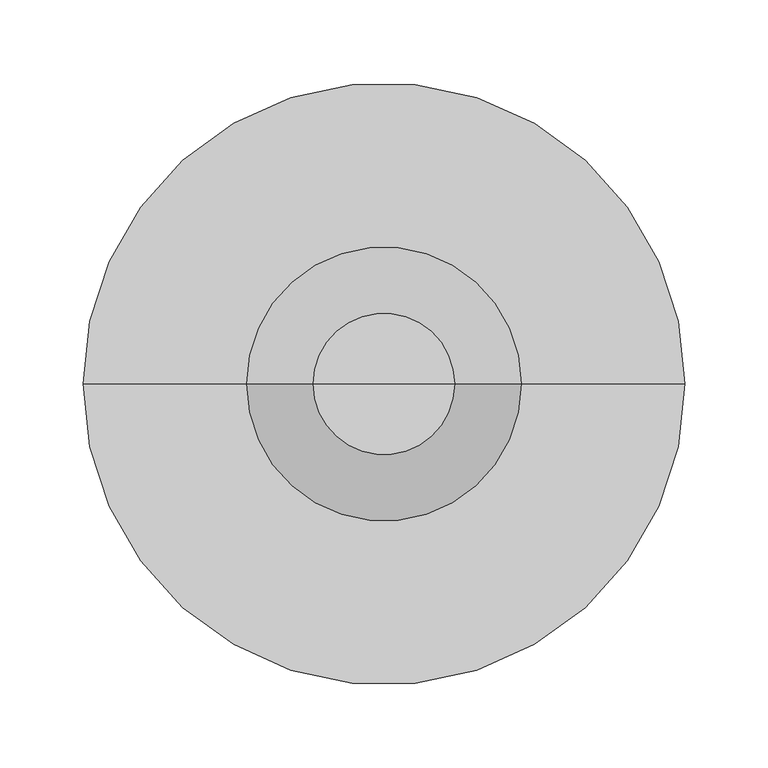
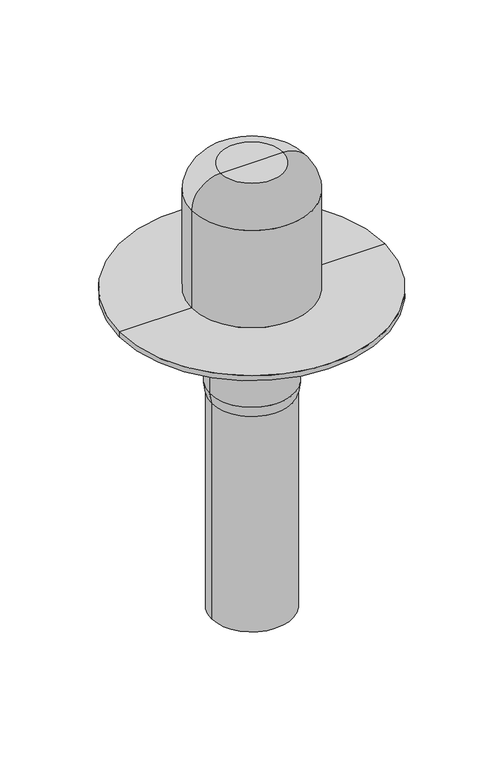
"""IFC4 building model written with IfcOpenShell, lengths in millimetres: flow terminal geometry, BIMLIB_Воронка_Кровельная_Fachmann_V-PVC : 110х450."""

from ifc_helpers import new_model, si_unit, point, frame, origin, origin_with_axes, place, context, project, spatial, polyline, circle_curve, ellipse_curve, trimmed, source, transform, mapped, element, save
from ifc_brep_helpers import plane_surface, cylinder_surface, revolved_surface, advanced_brep


def flow_terminal_4cd8edcf(model_context):
    return source(origin(), model_context, "Body", "AdvancedBrep", [
        advanced_brep(
        [(55.0, 0.0, -450.0), (-55.0, 0.0, -450.0), (-55.0, 0.0, -140.0), (55.0, 0.0, -140.0), (-57.5, 0.0, -125.0), (57.5, 0.0, -125.0), (-57.5, 0.0, -75.0), (57.5, 0.0, -75.0), (-82.5, 0.0, -35.0), (82.5, 0.0, -35.0), (-111.5, 0.0, -35.0), (111.5, 0.0, -35.0), (-111.5, 0.0, 0.0), (111.5, 0.0, 0.0), (0.0, 0.0, 0.0)],
        [
            (0, 1, circle_curve(frame((0.0, 0.0, -450.0), z_axis=(0.0, 0.0, -1.0), x_axis=(-1.0, 0.0, 0.0)), 55.0)),
            (1, 0, circle_curve(frame((0.0, 0.0, -450.0), z_axis=(0.0, 0.0, -1.0), x_axis=(-1.0, 0.0, 0.0)), 55.0)),
            (1, 2),
            (2, 3, circle_curve(frame((0.0, 0.0, -140.0), z_axis=(0.0, 0.0, -1.0), x_axis=(-1.0, 0.0, 0.0)), 55.0)),
            (3, 0),
            (3, 2, circle_curve(frame((0.0, 0.0, -140.0), z_axis=(0.0, 0.0, -1.0), x_axis=(-1.0, 0.0, 0.0)), 55.0)),
            (4, 5, circle_curve(frame((0.0, 0.0, -125.0), z_axis=(0.0, 0.0, -1.0), x_axis=(1.0, 0.0, 0.0)), 57.5)),
            (5, 3),
            (2, 4),
            (5, 4, circle_curve(frame((0.0, 0.0, -125.0), z_axis=(0.0, 0.0, -1.0), x_axis=(1.0, 0.0, 0.0)), 57.5)),
            (4, 6),
            (6, 7, circle_curve(frame((0.0, 0.0, -75.0), z_axis=(0.0, 0.0, -1.0), x_axis=(1.0, 0.0, 0.0)), 57.5)),
            (7, 5),
            (7, 6, circle_curve(frame((0.0, 0.0, -75.0), z_axis=(0.0, 0.0, -1.0), x_axis=(1.0, 0.0, 0.0)), 57.5)),
            (6, 8),
            (8, 9, circle_curve(frame((0.0, 0.0, -35.0), z_axis=(0.0, 0.0, -1.0), x_axis=(1.0, 0.0, 0.0)), 82.5)),
            (9, 7),
            (9, 8, circle_curve(frame((0.0, 0.0, -35.0), z_axis=(0.0, 0.0, -1.0), x_axis=(1.0, 0.0, 0.0)), 82.5)),
            (8, 10),
            (10, 11, circle_curve(frame((0.0, 0.0, -35.0), z_axis=(0.0, 0.0, -1.0), x_axis=(1.0, 0.0, 0.0)), 111.5)),
            (11, 9),
            (11, 10, circle_curve(frame((0.0, 0.0, -35.0), z_axis=(0.0, 0.0, -1.0), x_axis=(1.0, 0.0, 0.0)), 111.5)),
            (10, 12),
            (12, 13, circle_curve(frame((0.0, 0.0, 0.0), z_axis=(0.0, 0.0, -1.0), x_axis=(1.0, 0.0, 0.0)), 111.5)),
            (13, 11),
            (13, 12, circle_curve(frame((0.0, 0.0, 0.0), z_axis=(0.0, 0.0, -1.0), x_axis=(1.0, 0.0, 0.0)), 111.5)),
            (12, 14),
            (14, 13),
        ],
        [
            plane_surface(frame((-55.0, 0.0, -450.0), z_axis=(0.0, 0.0, -1.0), x_axis=(0.0, 1.0, 0.0))),
            cylinder_surface(frame((0.0, 0.0, -450.0), z_axis=(0.0, 0.0, 1.0), x_axis=(-1.0, 0.0, 0.0)), 55.0),
            revolved_surface(polyline([(55.0, 0.0, -140.0), (57.5, 0.0, -125.0)]), (0.0, 0.0, 267.0), (0.0, 0.0, 1.0)),
            cylinder_surface(frame((0.0, 0.0, 267.0), z_axis=(0.0, 0.0, 1.0), x_axis=(1.0, 0.0, 0.0)), 57.5),
            revolved_surface(polyline([(57.5, 0.0, -75.0), (82.5, 0.0, -35.0)]), (0.0, 0.0, 267.0), (0.0, 0.0, 1.0)),
            plane_surface(frame((0.0, 0.0, -35.0), z_axis=(0.0, 0.0, -1.0), x_axis=(1.0, 0.0, 0.0))),
            cylinder_surface(frame((0.0, 0.0, 267.0), z_axis=(0.0, 0.0, 1.0), x_axis=(1.0, 0.0, 0.0)), 111.5),
            plane_surface(origin_with_axes()),
        ],
        [
            (0, [[1, 2]]),
            (1, [[-2, 3, 4, 5]]),
            (1, [[-1, -5, 6, -3]]),
            (2, [[7, 8, -4, 9]]),
            (2, [[-8, 10, -9, -6]]),
            (3, [[-7, 11, 12, 13]]),
            (3, [[-10, -13, 14, -11]]),
            (4, [[-12, 15, 16, 17]]),
            (4, [[-14, -17, 18, -15]]),
            (5, [[-16, 19, 20, 21]]),
            (5, [[-18, -21, 22, -19]]),
            (6, [[-20, 23, 24, 25]]),
            (6, [[-22, -25, 26, -23]]),
            (7, [[-24, 27, 28]]),
            (7, [[-26, -28, -27]]),
        ],
    ),
        advanced_brep(
        [(0.0, 0.0, 187.0), (42.5, 0.0, 187.0), (-42.5, 0.0, 187.0), (-181.0, 0.0, 0.0), (181.0, 0.0, 0.0), (0.0, 0.0, 0.0), (-181.0, 0.0, 7.0), (181.0, 0.0, 7.0), (-82.5, 0.0, 7.0), (82.5, 0.0, 7.0), (-82.5, 0.0, 147.0), (82.5, 0.0, 147.0)],
        [
            (0, 1),
            (1, 2, circle_curve(frame((0.0, 0.0, 187.0), z_axis=(0.0, 0.0, 1.0), x_axis=(1.0, 0.0, 0.0)), 42.5)),
            (2, 0),
            (2, 1, circle_curve(frame((0.0, 0.0, 187.0), z_axis=(0.0, 0.0, 1.0), x_axis=(1.0, 0.0, 0.0)), 42.5)),
            (3, 4, circle_curve(frame((0.0, 0.0, 0.0), z_axis=(0.0, 0.0, -1.0), x_axis=(1.0, 0.0, 0.0)), 181.0)),
            (4, 5),
            (5, 3),
            (4, 3, circle_curve(frame((0.0, 0.0, 0.0), z_axis=(0.0, 0.0, -1.0), x_axis=(1.0, 0.0, 0.0)), 181.0)),
            (6, 7, circle_curve(frame((0.0, 0.0, 7.0), z_axis=(0.0, 0.0, -1.0), x_axis=(1.0, 0.0, 0.0)), 181.0)),
            (7, 4),
            (3, 6),
            (7, 6, circle_curve(frame((0.0, 0.0, 7.0), z_axis=(0.0, 0.0, -1.0), x_axis=(1.0, 0.0, 0.0)), 181.0)),
            (8, 9, circle_curve(frame((0.0, 0.0, 7.0), z_axis=(0.0, 0.0, -1.0), x_axis=(1.0, 0.0, 0.0)), 82.5)),
            (9, 7),
            (6, 8),
            (9, 8, circle_curve(frame((0.0, 0.0, 7.0), z_axis=(0.0, 0.0, -1.0), x_axis=(1.0, 0.0, 0.0)), 82.5)),
            (10, 11, circle_curve(frame((0.0, 0.0, 147.0), z_axis=(0.0, 0.0, -1.0), x_axis=(1.0, 0.0, 0.0)), 82.5)),
            (11, 9),
            (8, 10),
            (11, 10, circle_curve(frame((0.0, 0.0, 147.0), z_axis=(0.0, 0.0, -1.0), x_axis=(1.0, 0.0, 0.0)), 82.5)),
            (1, 11, circle_curve(frame((42.5, 0.0, 147.0), z_axis=(0.0, 1.0, 0.0), x_axis=(1.0, 0.0, 0.0)), 40.0)),
            (10, 2, circle_curve(frame((-42.5, 0.0, 147.0), z_axis=(0.0, 1.0, 0.0), x_axis=(-1.0, 0.0, 0.0)), 40.0)),
        ],
        [
            plane_surface(frame((0.0, 0.0, 187.0), z_axis=(0.0, 0.0, 1.0), x_axis=(1.0, 0.0, 0.0))),
            plane_surface(frame((0.0, 0.0, 0.0), z_axis=(0.0, 0.0, -1.0), x_axis=(1.0, 0.0, 0.0))),
            cylinder_surface(frame((0.0, 0.0, 337.0), z_axis=(0.0, 0.0, 1.0), x_axis=(1.0, 0.0, 0.0)), 181.0),
            plane_surface(frame((0.0, 0.0, 7.0), z_axis=(0.0, 0.0, 1.0), x_axis=(1.0, 0.0, 0.0))),
            cylinder_surface(frame((0.0, 0.0, 337.0), z_axis=(0.0, 0.0, 1.0), x_axis=(1.0, 0.0, 0.0)), 82.5),
            revolved_surface(trimmed(ellipse_curve(frame((42.5, 0.0, 147.0), z_axis=(0.0, -1.0, 0.0), x_axis=(1.0, 0.0, 0.0)), 40.0, 40.0), [point((82.5, 0.0, 147.0))], [point((42.5, 0.0, 187.0))], True, "CARTESIAN"), (0.0, 0.0, 337.0), (0.0, 0.0, 1.0)),
        ],
        [
            (0, [[1, 2, 3]]),
            (0, [[-3, 4, -1]]),
            (1, [[5, 6, 7]]),
            (1, [[8, -7, -6]]),
            (2, [[9, 10, -5, 11]]),
            (2, [[12, -11, -8, -10]]),
            (3, [[13, 14, -9, 15]]),
            (3, [[16, -15, -12, -14]]),
            (4, [[17, 18, -13, 19]]),
            (4, [[20, -19, -16, -18]]),
            (5, [[-2, 21, -17, 22]]),
            (5, [[-4, -22, -20, -21]]),
        ],
    ),
    ])


if __name__ == "__main__":
    model = new_model("IFC4")
    model_context = context("Model", 3, world=origin())
    ifc_project = project(units=[si_unit("LENGTHUNIT", "METRE", prefix="MILLI")], contexts=[model_context])
    site = spatial("IfcSite", under=ifc_project)
    building = spatial("IfcBuilding", under=site)
    placement = place(None, origin())
    flow_terminal_shape = flow_terminal_4cd8edcf(model_context)
    element("IfcFlowTerminal", 1, ObjectType="BIMLIB_Воронка_Кровельная_Fachmann_V-PVC : 110х450", at=placement, inside=building, context=model_context, shape_type="MappedRepresentation", body=[
        mapped(flow_terminal_shape, transform((0.0, 0.0, 0.0), x_axis=(1.0, 0.0, 0.0), y_axis=(0.0, 1.0, 0.0), z_axis=(0.0, 0.0, 1.0))),
    ])
    save(model, "model.ifc")
